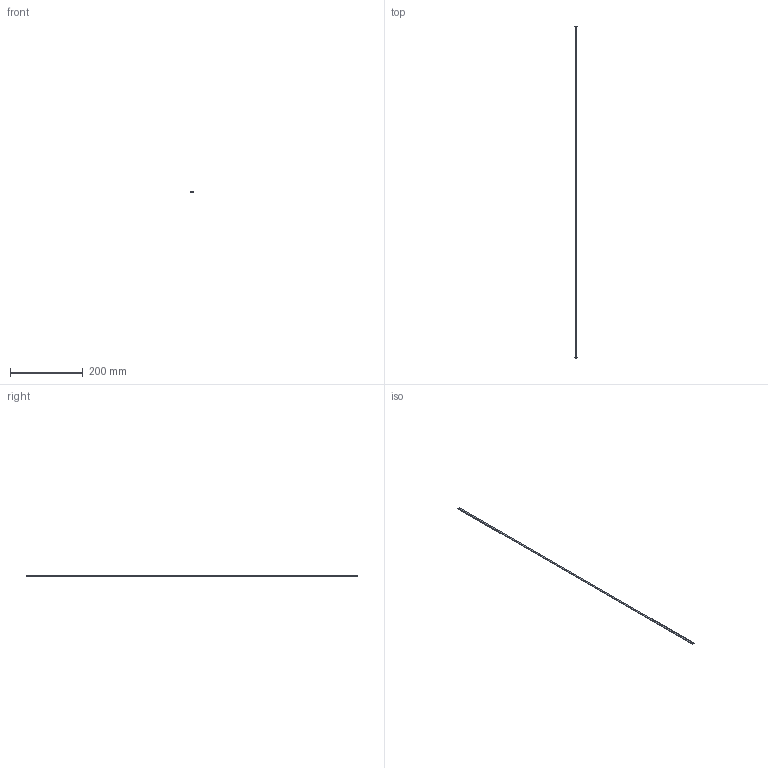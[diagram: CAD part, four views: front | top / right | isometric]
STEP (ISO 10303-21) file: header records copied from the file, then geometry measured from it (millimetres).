
FILE_DESCRIPTION(/* description */ (''),/* implementation_level */ '2;1');
FILE_NAME(/* name */ 'C:/Users/drich/Desktop/BM16 v1.step',/* time_stamp */ '2020-01-04T15:39:00-06:00',/* author */ (''),/* organization */ (''),/* preprocessor_version */ 'ST-DEVELOPER v18',/* originating_system */ 'Autodesk Translation Framework v8.12.0.6',/* authorisation */ '');
FILE_SCHEMA (('AUTOMOTIVE_DESIGN { 1 0 10303 214 3 1 1 }'));
Length unit declared in the file: inch
Products named in the file (1): BM16
Bounding box: 6.19 x 914.4 x 1.45 mm (x, y, z)
Volume: 7827.1 mm3; surface area: 12909.1 mm2
Topology: 1 solids, 1 shells, 6 faces, 12 edges, 8 vertices
Faces by surface type: plane 4, cylinder 2
Entity records: 202 total; most frequent: DIRECTION 30, CARTESIAN_POINT 27, ORIENTED_EDGE 24, EDGE_CURVE 12, AXIS2_PLACEMENT_3D 11, LINE 8, VECTOR 8, VERTEX_POINT 8
